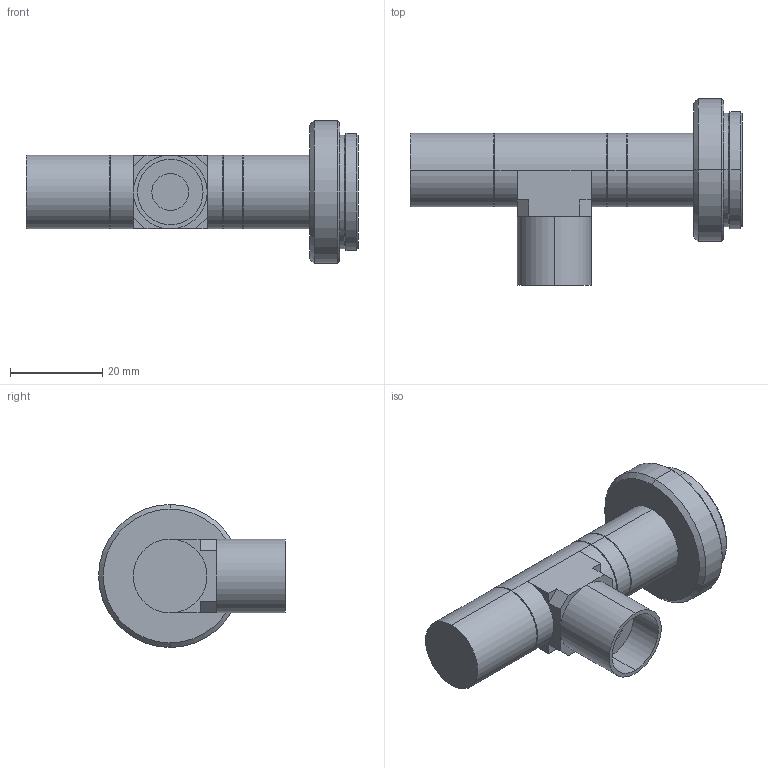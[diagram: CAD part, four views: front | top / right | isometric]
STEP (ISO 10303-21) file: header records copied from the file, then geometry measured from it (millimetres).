
FILE_DESCRIPTION (( 'STEP AP203' ), '1' );
FILE_NAME ('VS-TC4-65CO.STEP', '2015-04-01T00:42:31', ( 'miura_vst' ), ( '' ), 'SwSTEP 2.0', 'SolidWorks 2015', '' );
FILE_SCHEMA (( 'CONFIG_CONTROL_DESIGN' ));
Length unit declared in the file: millimetre
Products named in the file (1): VS-TC4-65CO
Bounding box: 72 x 40.5 x 31 mm (x, y, z)
Volume: 21551.9 mm3; surface area: 7050.1 mm2
Topology: 1 solids, 1 shells, 64 faces, 136 edges, 78 vertices
Faces by surface type: plane 23, cylinder 21, cone 20
Entity records: 1769 total; most frequent: DIRECTION 322, CARTESIAN_POINT 279, ORIENTED_EDGE 272, EDGE_CURVE 136, AXIS2_PLACEMENT_3D 121, VECTOR 80, LINE 80, VERTEX_POINT 78
